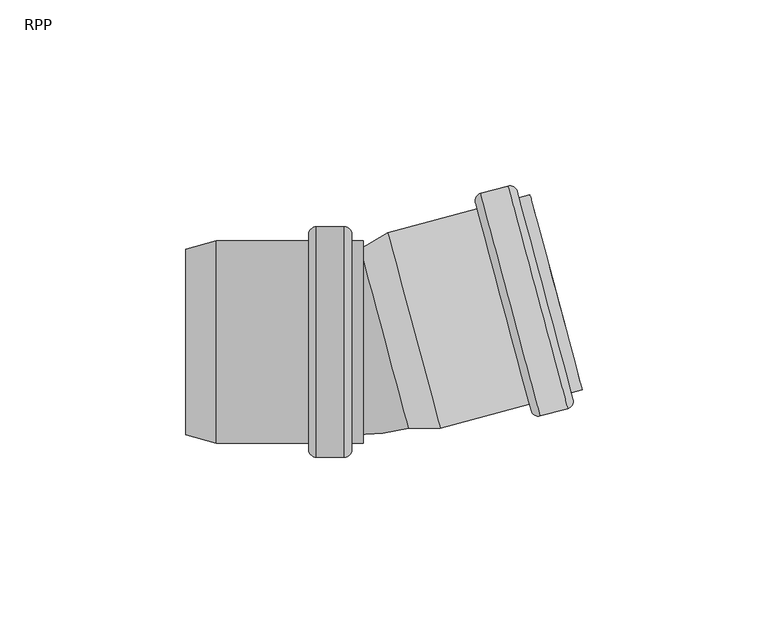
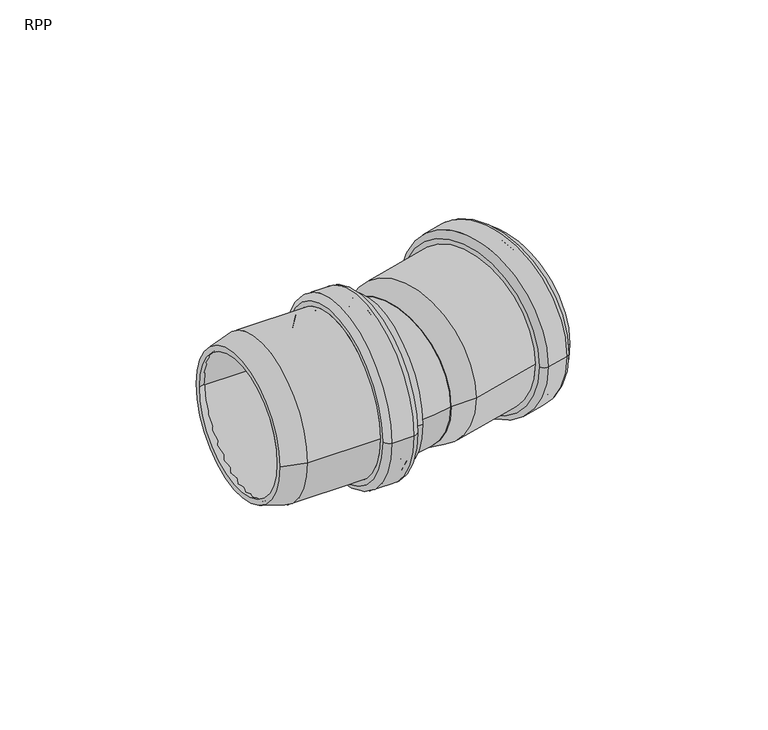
"""IFC4 building model written with IfcOpenShell, lengths in millimetres: pipe fitting geometry, RAUPIANO PLUS Bend : RPP."""

from ifc_helpers import new_model, si_unit, point, frame, origin, place, context, project, spatial, polyline, circle_curve, ellipse_curve, trimmed, source, transform, mapped, element, save
from ifc_brep_helpers import plane_surface, cylinder_surface, revolved_surface, advanced_brep


def rpp_1a07046c(model_context):
    return source(origin(), model_context, "Body", "AdvancedBrep", [
        advanced_brep(
        [(-14.8179224, -25.3, 0.0), (-14.8179224, 25.3, 0.0), (-41.3572709, 25.3, 0.0), (-41.3572709, -25.3, 0.0), (-14.3179224, -29.1, 0.0), (-14.3179224, 29.1, 0.0), (-14.8179224, 28.6, 0.0), (-14.8179224, -28.6, 0.0), (-7.5179224, -29.1, 0.0), (-7.5179224, 29.1, 0.0), (-7.0179224, -28.6, 0.0), (-7.0179224, 28.6, 0.0), (-2.0179224, -25.3, 0.0), (-2.0179224, 25.3, 0.0), (-7.0179224, 25.3, 0.0), (-7.0179224, -25.3, 0.0), (-5.1179224, -27.2, 0.0), (-5.1179224, 27.2, 0.0), (-2.0179224, 27.2, 0.0), (-2.0179224, -27.2, 0.0), (-7.1179224, -31.0, 0.0), (-7.1179224, 31.0, 0.0), (-5.1179224, 29.0, 0.0), (-5.1179224, -29.0, 0.0), (-14.7179224, -31.0, 0.0), (-14.7179224, 31.0, 0.0), (-16.7179224, -29.0, 0.0), (-16.7179224, 29.0, 0.0), (-41.6074107, -27.2, 0.0), (-41.6074107, 27.2, 0.0), (-16.7179224, 27.2, 0.0), (-16.7179224, -27.2, 0.0), (-49.8179224, -25.0, 0.0), (-49.8179224, 25.0, 0.0), (-49.8179224, 23.0329753, 0.0), (-49.8179224, -23.0329753, 0.0)],
        [
            (0, 1, circle_curve(frame((-14.8179224, 0.0, 0.0), z_axis=(1.0, 0.0, 0.0), x_axis=(0.0, 1.0, 0.0)), 25.3)),
            (1, 2),
            (2, 3, circle_curve(frame((-41.3572709, 0.0, 0.0), z_axis=(-1.0, 0.0, 0.0), x_axis=(0.0, 1.0, 0.0)), 25.3)),
            (3, 0),
            (4, 5, circle_curve(frame((-14.3179224, 0.0, 0.0), z_axis=(1.0, 0.0, 0.0), x_axis=(0.0, 1.0, 0.0)), 29.1)),
            (5, 6, circle_curve(frame((-14.3179224, 28.6, 0.0), z_axis=(0.0, 0.0, 1.0), x_axis=(0.0, -1.0, 0.0)), 0.5)),
            (6, 7, circle_curve(frame((-14.8179224, 0.0, 0.0), z_axis=(-1.0, 0.0, 0.0), x_axis=(0.0, 1.0, 0.0)), 28.6)),
            (7, 4, circle_curve(frame((-14.3179224, -28.6, 0.0), z_axis=(0.0, 0.0, 1.0), x_axis=(0.0, 1.0, 0.0)), 0.5)),
            (8, 9, circle_curve(frame((-7.5179224, 0.0, 0.0), z_axis=(1.0, 0.0, 0.0), x_axis=(0.0, 1.0, 0.0)), 29.1)),
            (9, 5),
            (4, 8),
            (10, 11, circle_curve(frame((-7.0179224, 0.0, 0.0), z_axis=(1.0, 0.0, 0.0), x_axis=(0.0, 1.0, 0.0)), 28.6)),
            (11, 9, circle_curve(frame((-7.5179224, 28.6, 0.0), z_axis=(0.0, 0.0, 1.0), x_axis=(0.0, -1.0, 0.0)), 0.5)),
            (8, 10, circle_curve(frame((-7.5179224, -28.6, 0.0), z_axis=(0.0, 0.0, 1.0), x_axis=(0.0, 1.0, 0.0)), 0.5)),
            (12, 13, circle_curve(frame((-2.0179224, 0.0, 0.0), z_axis=(1.0, 0.0, 0.0), x_axis=(0.0, 1.0, 0.0)), 25.3)),
            (13, 14),
            (14, 15, circle_curve(frame((-7.0179224, 0.0, 0.0), z_axis=(-1.0, 0.0, 0.0), x_axis=(0.0, 1.0, 0.0)), 25.3)),
            (15, 12),
            (16, 17, circle_curve(frame((-5.1179224, 0.0, 0.0), z_axis=(1.0, 0.0, 0.0), x_axis=(0.0, 1.0, 0.0)), 27.2)),
            (17, 18),
            (18, 19, circle_curve(frame((-2.0179224, 0.0, 0.0), z_axis=(-1.0, 0.0, 0.0), x_axis=(0.0, 1.0, 0.0)), 27.2)),
            (19, 16),
            (20, 21, circle_curve(frame((-7.1179224, 0.0, 0.0), z_axis=(1.0, 0.0, 0.0), x_axis=(0.0, 1.0, 0.0)), 31.0)),
            (21, 22, circle_curve(frame((-7.1179224, 29.0, 0.0), z_axis=(0.0, 0.0, -1.0), x_axis=(0.0, -1.0, 0.0)), 2.0)),
            (22, 23, circle_curve(frame((-5.1179224, 0.0, 0.0), z_axis=(-1.0, 0.0, 0.0), x_axis=(0.0, 1.0, 0.0)), 29.0)),
            (23, 20, circle_curve(frame((-7.1179224, -29.0, 0.0), z_axis=(0.0, 0.0, -1.0), x_axis=(0.0, 1.0, 0.0)), 2.0)),
            (24, 25, circle_curve(frame((-14.7179224, 0.0, 0.0), z_axis=(1.0, 0.0, 0.0), x_axis=(0.0, 1.0, 0.0)), 31.0)),
            (25, 21),
            (20, 24),
            (26, 27, circle_curve(frame((-16.7179224, 0.0, 0.0), z_axis=(1.0, 0.0, 0.0), x_axis=(0.0, 1.0, 0.0)), 29.0)),
            (27, 25, circle_curve(frame((-14.7179224, 29.0, 0.0), z_axis=(0.0, 0.0, -1.0), x_axis=(0.0, -1.0, 0.0)), 2.0)),
            (24, 26, circle_curve(frame((-14.7179224, -29.0, 0.0), z_axis=(0.0, 0.0, -1.0), x_axis=(0.0, 1.0, 0.0)), 2.0)),
            (28, 29, circle_curve(frame((-41.6074107, 0.0, 0.0), z_axis=(1.0, 0.0, 0.0), x_axis=(0.0, 1.0, 0.0)), 27.2)),
            (29, 30),
            (30, 31, circle_curve(frame((-16.7179224, 0.0, 0.0), z_axis=(-1.0, 0.0, 0.0), x_axis=(0.0, 1.0, 0.0)), 27.2)),
            (31, 28),
            (32, 33, circle_curve(frame((-49.8179224, 0.0, 0.0), z_axis=(1.0, 0.0, 0.0), x_axis=(0.0, 1.0, 0.0)), 25.0)),
            (33, 29),
            (28, 32),
            (2, 34),
            (34, 35, circle_curve(frame((-49.8179224, 0.0, 0.0), z_axis=(-1.0, 0.0, 0.0), x_axis=(0.0, 1.0, 0.0)), 23.0329753)),
            (35, 3),
            (1, 0, circle_curve(frame((-14.8179224, 0.0, 0.0), z_axis=(1.0, 0.0, 0.0), x_axis=(0.0, -1.0, 0.0)), 25.3)),
            (3, 2, circle_curve(frame((-41.3572709, 0.0, 0.0), z_axis=(-1.0, 0.0, 0.0), x_axis=(0.0, -1.0, 0.0)), 25.3)),
            (6, 7, circle_curve(frame((-14.8179224, 0.0, 0.0), z_axis=(1.0, 0.0, 0.0), x_axis=(0.0, -1.0, 0.0)), 28.6)),
            (5, 4, circle_curve(frame((-14.3179224, 0.0, 0.0), z_axis=(1.0, 0.0, 0.0), x_axis=(0.0, -1.0, 0.0)), 29.1)),
            (9, 8, circle_curve(frame((-7.5179224, 0.0, 0.0), z_axis=(1.0, 0.0, 0.0), x_axis=(0.0, -1.0, 0.0)), 29.1)),
            (11, 10, circle_curve(frame((-7.0179224, 0.0, 0.0), z_axis=(1.0, 0.0, 0.0), x_axis=(0.0, -1.0, 0.0)), 28.6)),
            (14, 15, circle_curve(frame((-7.0179224, 0.0, 0.0), z_axis=(1.0, 0.0, 0.0), x_axis=(0.0, -1.0, 0.0)), 25.3)),
            (13, 12, circle_curve(frame((-2.0179224, 0.0, 0.0), z_axis=(1.0, 0.0, 0.0), x_axis=(0.0, -1.0, 0.0)), 25.3)),
            (18, 19, circle_curve(frame((-2.0179224, 0.0, 0.0), z_axis=(1.0, 0.0, 0.0), x_axis=(0.0, -1.0, 0.0)), 27.2)),
            (17, 16, circle_curve(frame((-5.1179224, 0.0, 0.0), z_axis=(1.0, 0.0, 0.0), x_axis=(0.0, -1.0, 0.0)), 27.2)),
            (22, 23, circle_curve(frame((-5.1179224, 0.0, 0.0), z_axis=(1.0, 0.0, 0.0), x_axis=(0.0, -1.0, 0.0)), 29.0)),
            (21, 20, circle_curve(frame((-7.1179224, 0.0, 0.0), z_axis=(1.0, 0.0, 0.0), x_axis=(0.0, -1.0, 0.0)), 31.0)),
            (25, 24, circle_curve(frame((-14.7179224, 0.0, 0.0), z_axis=(1.0, 0.0, 0.0), x_axis=(0.0, -1.0, 0.0)), 31.0)),
            (27, 26, circle_curve(frame((-16.7179224, 0.0, 0.0), z_axis=(1.0, 0.0, 0.0), x_axis=(0.0, -1.0, 0.0)), 29.0)),
            (30, 31, circle_curve(frame((-16.7179224, 0.0, 0.0), z_axis=(1.0, 0.0, 0.0), x_axis=(0.0, -1.0, 0.0)), 27.2)),
            (29, 28, circle_curve(frame((-41.6074107, 0.0, 0.0), z_axis=(1.0, 0.0, 0.0), x_axis=(0.0, -1.0, 0.0)), 27.2)),
            (33, 32, circle_curve(frame((-49.8179224, 0.0, 0.0), z_axis=(1.0, 0.0, 0.0), x_axis=(0.0, -1.0, 0.0)), 25.0)),
            (34, 35, circle_curve(frame((-49.8179224, 0.0, 0.0), z_axis=(1.0, 0.0, 0.0), x_axis=(0.0, -1.0, 0.0)), 23.0329753)),
        ],
        [
            revolved_surface(polyline([(-41.3572709, 25.3, 0.0), (-14.8179224, 25.3, 0.0)]), (-49.8179224, 0.0, 0.0), (-1.0, 0.0, 0.0)),
            revolved_surface(trimmed(ellipse_curve(frame((-14.3179224, 28.6, 0.0), z_axis=(0.0, 0.0, -1.0), x_axis=(0.0, -1.0, 0.0)), 0.5, 0.5), [point((-14.8179224, 28.6, 0.0))], [point((-14.3179224, 29.1, 0.0))], True, "CARTESIAN"), (-49.8179224, 0.0, 0.0), (-1.0, 0.0, 0.0)),
            revolved_surface(polyline([(-14.3179224, 29.1, 0.0), (-7.517922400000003, 29.1, 0.0)]), (-49.8179224, 0.0, 0.0), (-1.0, 0.0, 0.0)),
            revolved_surface(trimmed(ellipse_curve(frame((-7.5179224, 28.6, 0.0), z_axis=(0.0, 0.0, -1.0), x_axis=(0.0, -1.0, 0.0)), 0.5, 0.5), [point((-7.5179224, 29.1, 0.0))], [point((-7.0179224, 28.6, 0.0))], True, "CARTESIAN"), (-49.8179224, 0.0, 0.0), (-1.0, 0.0, 0.0)),
            revolved_surface(polyline([(-7.017922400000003, 25.3, 0.0), (-2.0179224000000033, 25.3, 0.0)]), (-49.8179224, 0.0, 0.0), (-1.0, 0.0, 0.0)),
            cylinder_surface(frame((-49.8179224, 0.0, 0.0), z_axis=(-1.0, 0.0, 0.0), x_axis=(0.0, 1.0, 0.0)), 27.2),
            revolved_surface(trimmed(ellipse_curve(frame((-7.1179224, 29.0, 0.0), z_axis=(0.0, 0.0, 1.0), x_axis=(0.0, -1.0, 0.0)), 2.0, 2.0), [point((-5.1179224, 29.0, 0.0))], [point((-7.1179224, 31.0, 0.0))], True, "CARTESIAN"), (-49.8179224, 0.0, 0.0), (-1.0, 0.0, 0.0)),
            cylinder_surface(frame((-49.8179224, 0.0, 0.0), z_axis=(-1.0, 0.0, 0.0), x_axis=(0.0, 1.0, 0.0)), 31.0),
            revolved_surface(trimmed(ellipse_curve(frame((-14.7179224, 29.0, 0.0), z_axis=(0.0, 0.0, 1.0), x_axis=(0.0, -1.0, 0.0)), 2.0, 2.0), [point((-14.7179224, 31.0, 0.0))], [point((-16.7179224, 29.0, 0.0))], True, "CARTESIAN"), (-49.8179224, 0.0, 0.0), (-1.0, 0.0, 0.0)),
            revolved_surface(polyline([(-41.6074107, 27.2, 0.0), (-49.8179224, 25.0, 0.0)]), (-49.8179224, 0.0, 0.0), (-1.0, 0.0, 0.0)),
            revolved_surface(polyline([(-49.8179224, 23.0329753, 0.0), (-41.3572709, 25.3, 0.0)]), (-49.8179224, 0.0, 0.0), (-1.0, 0.0, 0.0)),
            revolved_surface(polyline([(-41.3572709, -25.3, 0.0), (-14.8179224, -25.3, 0.0)]), (-49.8179224, 0.0, 0.0), (-1.0, 0.0, 0.0)),
            plane_surface(frame((-14.8179224, 0.0, 0.0), z_axis=(1.0, 0.0, 0.0), x_axis=(0.0, -1.0, 0.0))),
            revolved_surface(trimmed(ellipse_curve(frame((-14.3179224, -28.6, 0.0), z_axis=(0.0, 0.0, 1.0), x_axis=(0.0, 1.0, 0.0)), 0.5, 0.5), [point((-14.8179224, -28.6, 0.0))], [point((-14.3179224, -29.1, 0.0))], True, "CARTESIAN"), (-49.8179224, 0.0, 0.0), (-1.0, 0.0, 0.0)),
            revolved_surface(polyline([(-14.3179224, -29.1, 0.0), (-7.517922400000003, -29.1, 0.0)]), (-49.8179224, 0.0, 0.0), (-1.0, 0.0, 0.0)),
            revolved_surface(trimmed(ellipse_curve(frame((-7.5179224, -28.6, 0.0), z_axis=(0.0, 0.0, 1.0), x_axis=(0.0, 1.0, 0.0)), 0.5, 0.5), [point((-7.5179224, -29.1, 0.0))], [point((-7.0179224, -28.6, 0.0))], True, "CARTESIAN"), (-49.8179224, 0.0, 0.0), (-1.0, 0.0, 0.0)),
            plane_surface(frame((-7.0179224, 0.0, 0.0), z_axis=(-1.0, 0.0, 0.0), x_axis=(0.0, -1.0, 0.0))),
            revolved_surface(polyline([(-7.017922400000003, -25.3, 0.0), (-2.0179224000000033, -25.3, 0.0)]), (-49.8179224, 0.0, 0.0), (-1.0, 0.0, 0.0)),
            plane_surface(frame((-2.0179224, 0.0, 0.0), z_axis=(1.0, 0.0, 0.0), x_axis=(0.0, -1.0, 0.0))),
            cylinder_surface(frame((-49.8179224, 0.0, 0.0), z_axis=(-1.0, 0.0, 0.0), x_axis=(0.0, -1.0, 0.0)), 27.2),
            plane_surface(frame((-5.1179224, 0.0, 0.0), z_axis=(1.0, 0.0, 0.0), x_axis=(0.0, -1.0, 0.0))),
            revolved_surface(trimmed(ellipse_curve(frame((-7.1179224, -29.0, 0.0), z_axis=(0.0, 0.0, -1.0), x_axis=(0.0, 1.0, 0.0)), 2.0, 2.0), [point((-5.1179224, -29.0, 0.0))], [point((-7.1179224, -31.0, 0.0))], True, "CARTESIAN"), (-49.8179224, 0.0, 0.0), (-1.0, 0.0, 0.0)),
            cylinder_surface(frame((-49.8179224, 0.0, 0.0), z_axis=(-1.0, 0.0, 0.0), x_axis=(0.0, -1.0, 0.0)), 31.0),
            revolved_surface(trimmed(ellipse_curve(frame((-14.7179224, -29.0, 0.0), z_axis=(0.0, 0.0, -1.0), x_axis=(0.0, 1.0, 0.0)), 2.0, 2.0), [point((-14.7179224, -31.0, 0.0))], [point((-16.7179224, -29.0, 0.0))], True, "CARTESIAN"), (-49.8179224, 0.0, 0.0), (-1.0, 0.0, 0.0)),
            plane_surface(frame((-16.7179224, 0.0, 0.0), z_axis=(-1.0, 0.0, 0.0), x_axis=(0.0, -1.0, 0.0))),
            revolved_surface(polyline([(-41.6074107, -27.2, 0.0), (-49.8179224, -25.0, 0.0)]), (-49.8179224, 0.0, 0.0), (-1.0, 0.0, 0.0)),
            plane_surface(frame((-49.8179224, 0.0, 0.0), z_axis=(-1.0, 0.0, 0.0), x_axis=(0.0, -1.0, 0.0))),
            revolved_surface(polyline([(-49.8179224, -23.0329753, 0.0), (-41.3572709, -25.3, 0.0)]), (-49.8179224, 0.0, 0.0), (-1.0, 0.0, 0.0)),
        ],
        [
            (0, [[1, 2, 3, 4]]),
            (1, [[5, 6, 7, 8]]),
            (2, [[9, 10, -5, 11]]),
            (3, [[12, 13, -9, 14]]),
            (4, [[15, 16, 17, 18]]),
            (5, [[19, 20, 21, 22]]),
            (6, [[23, 24, 25, 26]]),
            (7, [[27, 28, -23, 29]]),
            (8, [[30, 31, -27, 32]]),
            (5, [[33, 34, 35, 36]]),
            (9, [[37, 38, -33, 39]]),
            (10, [[-3, 40, 41, 42]]),
            (11, [[43, -4, 44, -2]]),
            (12, [[45, -7], [-43, -1]]),
            (13, [[46, -8, -45, -6]]),
            (14, [[47, -11, -46, -10]]),
            (15, [[48, -14, -47, -13]]),
            (16, [[-48, -12], [49, -17]]),
            (17, [[50, -18, -49, -16]]),
            (18, [[51, -21], [-50, -15]]),
            (19, [[52, -22, -51, -20]]),
            (20, [[53, -25], [-52, -19]]),
            (21, [[54, -26, -53, -24]]),
            (22, [[55, -29, -54, -28]]),
            (23, [[56, -32, -55, -31]]),
            (24, [[-56, -30], [57, -35]]),
            (19, [[58, -36, -57, -34]]),
            (25, [[59, -39, -58, -38]]),
            (26, [[-59, -37], [60, -41]]),
            (27, [[-44, -42, -60, -40]]),
        ],
    ),
        advanced_brep(
        [(9.6492025, -21.2599946, 0.0), (-2.2735428, 23.2362967, 0.0), (5.3120698, 27.6158522, 0.0), (18.4083135, -21.2599946, 0.0), (18.6584533, -23.1599946, 0.0), (4.5786972, 29.3863703, 0.0), (-2.7826462, 25.1362967, 0.0), (10.158306, -23.1599946, 0.0), (42.6998528, -16.718121, 0.0), (28.6200967, 35.8282439, 0.0), (52.9562531, -17.9039764, 0.0), (36.9094723, 41.9834249, 0.0), (29.568436, 40.0164001, 0.0), (45.6152168, -19.8710011, 0.0), (56.8989624, -12.9134811, 0.0), (42.8192063, 39.6328839, 0.0), (39.8248363, 38.8305448, 0.0), (53.9045923, -13.7158201, 0.0), (51.5775771, -12.3723172, 0.0), (38.4813334, 36.5035296, 0.0), (43.3109625, 37.7976248, 0.0), (56.4072062, -11.078222, 0.0), (45.5098309, -17.9322144, 0.0), (30.4465625, 38.2846687, 0.0), (37.0148581, 40.0446382, 0.0), (52.0781265, -16.1722449, 0.0), (30.947112, 34.484741, 0.0), (44.0433556, -14.3911058, 0.0), (28.1542224, 37.5669104, 0.0), (43.165727, -18.4567875, 0.0), (54.3704666, -15.4544866, 0.0), (39.358962, 40.5692113, 0.0), (37.6272306, 39.6910848, 0.0), (52.4316799, -15.5598725, 0.0), (44.8974585, -17.578661, 0.0), (30.0930091, 37.6722962, 0.0)],
        [
            (0, 1, circle_curve(frame((3.6878299, 0.988151, 0.0), z_axis=(-0.965925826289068, -0.25881904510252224, 0.0), x_axis=(-0.25881904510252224, 0.965925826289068, 0.0)), 23.0329753)),
            (1, 2),
            (2, 3, circle_curve(frame((11.8601917, 3.1779288, 0.0), z_axis=(0.965925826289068, 0.25881904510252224, 0.0), x_axis=(-0.25881904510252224, 0.965925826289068, 0.0)), 25.3)),
            (3, 0),
            (4, 5, circle_curve(frame((11.6185753, 3.1131879, 0.0), z_axis=(-0.965925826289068, -0.25881904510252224, 0.0), x_axis=(-0.25881904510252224, 0.965925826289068, 0.0)), 27.2)),
            (5, 6),
            (6, 7, circle_curve(frame((3.6878299, 0.988151, 0.0), z_axis=(0.965925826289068, 0.25881904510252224, 0.0), x_axis=(-0.25881904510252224, 0.965925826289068, 0.0)), 25.0)),
            (7, 4),
            (8, 9, circle_curve(frame((35.6599747, 9.5550614, 0.0), z_axis=(-0.965925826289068, -0.25881904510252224, 0.0), x_axis=(-0.25881904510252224, 0.965925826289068, 0.0)), 27.2)),
            (9, 5),
            (4, 8),
            (10, 11, circle_curve(frame((44.9328627, 12.0397243, 0.0), z_axis=(-0.965925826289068, -0.25881904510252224, 0.0), x_axis=(-0.25881904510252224, 0.965925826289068, 0.0)), 31.0)),
            (11, 12),
            (12, 13, circle_curve(frame((37.5918264, 10.0726995, 0.0), z_axis=(0.965925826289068, 0.25881904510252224, 0.0), x_axis=(-0.25881904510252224, 0.965925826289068, 0.0)), 31.0)),
            (13, 10),
            (14, 15, circle_curve(frame((49.8590844, 13.3597014, 0.0), z_axis=(-0.965925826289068, -0.25881904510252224, 0.0), x_axis=(-0.25881904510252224, 0.965925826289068, 0.0)), 27.2)),
            (15, 16),
            (16, 17, circle_curve(frame((46.8647143, 12.5573624, 0.0), z_axis=(0.965925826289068, 0.25881904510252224, 0.0), x_axis=(-0.25881904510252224, 0.965925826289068, 0.0)), 27.2)),
            (17, 14),
            (18, 19, circle_curve(frame((45.0294552, 12.0656062, 0.0), z_axis=(-0.965925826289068, -0.25881904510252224, 0.0), x_axis=(-0.25881904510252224, 0.965925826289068, 0.0)), 25.3)),
            (19, 20),
            (20, 21, circle_curve(frame((49.8590844, 13.3597014, 0.0), z_axis=(0.965925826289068, 0.25881904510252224, 0.0), x_axis=(-0.25881904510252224, 0.965925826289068, 0.0)), 25.3)),
            (21, 18),
            (22, 23, circle_curve(frame((37.9781967, 10.1762271, 0.0), z_axis=(-0.965925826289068, -0.25881904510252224, 0.0), x_axis=(-0.25881904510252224, 0.965925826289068, 0.0)), 29.1)),
            (23, 24),
            (24, 25, circle_curve(frame((44.5464923, 11.9361966, 0.0), z_axis=(0.965925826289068, 0.25881904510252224, 0.0), x_axis=(-0.25881904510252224, 0.965925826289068, 0.0)), 29.1)),
            (25, 22),
            (2, 26),
            (26, 27, circle_curve(frame((37.4952338, 10.0468176, 0.0), z_axis=(0.965925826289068, 0.25881904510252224, 0.0), x_axis=(-0.25881904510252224, 0.965925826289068, 0.0)), 25.3)),
            (27, 3),
            (1, 0, circle_curve(frame((3.6878299, 0.988151, 0.0), z_axis=(-0.965925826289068, -0.25881904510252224, 0.0), x_axis=(0.25881904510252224, -0.965925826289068, 0.0)), 23.0329753)),
            (3, 2, circle_curve(frame((11.8601917, 3.1779288, 0.0), z_axis=(0.965925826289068, 0.25881904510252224, 0.0), x_axis=(0.25881904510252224, -0.965925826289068, 0.0)), 25.3)),
            (6, 7, circle_curve(frame((3.6878299, 0.988151, 0.0), z_axis=(-0.965925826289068, -0.25881904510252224, 0.0), x_axis=(0.25881904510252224, -0.965925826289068, 0.0)), 25.0)),
            (5, 4, circle_curve(frame((11.6185753, 3.1131879, 0.0), z_axis=(-0.965925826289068, -0.25881904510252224, 0.0), x_axis=(0.25881904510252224, -0.965925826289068, 0.0)), 27.2)),
            (9, 8, circle_curve(frame((35.6599747, 9.5550614, 0.0), z_axis=(-0.965925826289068, -0.25881904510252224, 0.0), x_axis=(0.25881904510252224, -0.965925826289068, 0.0)), 27.2)),
            (28, 29, circle_curve(frame((35.6599747, 9.5550614, 0.0), z_axis=(-0.965925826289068, -0.25881904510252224, 0.0), x_axis=(0.25881904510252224, -0.965925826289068, 0.0)), 29.0)),
            (29, 28, circle_curve(frame((35.6599747, 9.5550614, 0.0), z_axis=(-0.965925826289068, -0.25881904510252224, 0.0), x_axis=(-0.25881904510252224, 0.965925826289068, 0.0)), 29.0)),
            (11, 10, circle_curve(frame((44.9328627, 12.0397243, 0.0), z_axis=(-0.965925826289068, -0.25881904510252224, 0.0), x_axis=(0.25881904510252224, -0.965925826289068, 0.0)), 31.0)),
            (13, 12, circle_curve(frame((37.5918264, 10.0726995, 0.0), z_axis=(0.965925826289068, 0.25881904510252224, 0.0), x_axis=(0.25881904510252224, -0.965925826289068, 0.0)), 31.0)),
            (30, 31, circle_curve(frame((46.8647143, 12.5573624, 0.0), z_axis=(0.965925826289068, 0.25881904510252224, 0.0), x_axis=(0.25881904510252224, -0.965925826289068, 0.0)), 29.0)),
            (31, 30, circle_curve(frame((46.8647143, 12.5573624, 0.0), z_axis=(0.965925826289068, 0.25881904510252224, 0.0), x_axis=(-0.25881904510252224, 0.965925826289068, 0.0)), 29.0)),
            (16, 17, circle_curve(frame((46.8647143, 12.5573624, 0.0), z_axis=(-0.965925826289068, -0.25881904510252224, 0.0), x_axis=(0.25881904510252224, -0.965925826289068, 0.0)), 27.2)),
            (15, 14, circle_curve(frame((49.8590844, 13.3597014, 0.0), z_axis=(-0.965925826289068, -0.25881904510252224, 0.0), x_axis=(0.25881904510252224, -0.965925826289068, 0.0)), 27.2)),
            (20, 21, circle_curve(frame((49.8590844, 13.3597014, 0.0), z_axis=(-0.965925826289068, -0.25881904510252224, 0.0), x_axis=(0.25881904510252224, -0.965925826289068, 0.0)), 25.3)),
            (19, 18, circle_curve(frame((45.0294552, 12.0656062, 0.0), z_axis=(-0.965925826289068, -0.25881904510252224, 0.0), x_axis=(0.25881904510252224, -0.965925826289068, 0.0)), 25.3)),
            (32, 33, circle_curve(frame((45.0294552, 12.0656062, 0.0), z_axis=(-0.965925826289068, -0.25881904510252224, 0.0), x_axis=(0.25881904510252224, -0.965925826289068, 0.0)), 28.6)),
            (33, 32, circle_curve(frame((45.0294552, 12.0656062, 0.0), z_axis=(-0.965925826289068, -0.25881904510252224, 0.0), x_axis=(-0.25881904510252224, 0.965925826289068, 0.0)), 28.6)),
            (23, 22, circle_curve(frame((37.9781967, 10.1762271, 0.0), z_axis=(-0.965925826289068, -0.25881904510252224, 0.0), x_axis=(0.25881904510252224, -0.965925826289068, 0.0)), 29.1)),
            (25, 24, circle_curve(frame((44.5464923, 11.9361966, 0.0), z_axis=(0.965925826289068, 0.25881904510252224, 0.0), x_axis=(0.25881904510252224, -0.965925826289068, 0.0)), 29.1)),
            (34, 35, circle_curve(frame((37.4952338, 10.0468176, 0.0), z_axis=(0.965925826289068, 0.25881904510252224, 0.0), x_axis=(0.25881904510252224, -0.965925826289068, 0.0)), 28.6)),
            (35, 34, circle_curve(frame((37.4952338, 10.0468176, 0.0), z_axis=(0.965925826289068, 0.25881904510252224, 0.0), x_axis=(-0.25881904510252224, 0.965925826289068, 0.0)), 28.6)),
            (26, 27, circle_curve(frame((37.4952338, 10.0468176, 0.0), z_axis=(-0.965925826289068, -0.25881904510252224, 0.0), x_axis=(0.25881904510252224, -0.965925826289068, 0.0)), 25.3)),
            (12, 28, circle_curve(frame((30.0860741, 38.0845485, 0.0), z_axis=(0.0, 0.0, 1.0000000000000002), x_axis=(0.25881904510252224, -0.965925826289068, 0.0)), 2.0)),
            (29, 13, circle_curve(frame((45.0975787, -17.9391494, 0.0), z_axis=(0.0, 0.0, 1.0000000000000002), x_axis=(-0.25881904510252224, 0.965925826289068, 0.0)), 2.0)),
            (31, 11, circle_curve(frame((37.4271104, 40.0515732, 0.0), z_axis=(0.0, 0.0, 1.0000000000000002), x_axis=(0.25881904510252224, -0.965925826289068, 0.0)), 2.0)),
            (10, 30, circle_curve(frame((52.438615, -15.9721247, 0.0), z_axis=(0.0, 0.0, 1.0000000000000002), x_axis=(-0.25881904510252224, 0.965925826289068, 0.0)), 2.0)),
            (24, 32, circle_curve(frame((37.1442676, 39.5616753, 0.0), z_axis=(0.0, 0.0, -1.0000000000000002), x_axis=(0.25881904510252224, -0.965925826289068, 0.0)), 0.5)),
            (33, 25, circle_curve(frame((51.948717, -15.689282, 0.0), z_axis=(0.0, 0.0, -1.0000000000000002), x_axis=(-0.25881904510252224, 0.965925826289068, 0.0)), 0.5)),
            (35, 23, circle_curve(frame((30.575972, 37.8017058, 0.0), z_axis=(0.0, 0.0, -1.0000000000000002), x_axis=(0.25881904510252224, -0.965925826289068, 0.0)), 0.5)),
            (22, 34, circle_curve(frame((45.3804214, -17.4492515, 0.0), z_axis=(0.0, 0.0, -1.0000000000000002), x_axis=(-0.25881904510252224, 0.965925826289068, 0.0)), 0.5)),
        ],
        [
            revolved_surface(polyline([(5.3120698, 27.6158522, 0.0), (-2.2735428, 23.2362967, 0.0)]), (3.6878299, 0.988151, 0.0), (0.965925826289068, 0.25881904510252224, 0.0)),
            revolved_surface(polyline([(-2.7826462, 25.1362967, 0.0), (4.5786972, 29.3863703, 0.0)]), (3.6878299, 0.988151, 0.0), (0.965925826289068, 0.25881904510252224, 0.0)),
            cylinder_surface(frame((3.6878299, 0.988151, 0.0), z_axis=(0.965925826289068, 0.25881904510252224, 0.0), x_axis=(-0.25881904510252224, 0.965925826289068, 0.0)), 27.2),
            cylinder_surface(frame((3.6878299, 0.988151, 0.0), z_axis=(0.965925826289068, 0.25881904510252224, 0.0), x_axis=(-0.25881904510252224, 0.965925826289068, 0.0)), 31.0),
            revolved_surface(polyline([(43.310962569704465, 37.79762476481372, 0.0), (38.48133338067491, 36.503529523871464, 0.0)]), (3.6878299, 0.988151, 0.0), (0.965925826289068, 0.25881904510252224, 0.0)),
            revolved_surface(polyline([(37.01485811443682, 40.04463814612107, 0.0), (30.446562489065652, 38.28466863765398, 0.0)]), (3.6878299, 0.988151, 0.0), (0.965925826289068, 0.25881904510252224, 0.0)),
            revolved_surface(polyline([(30.947112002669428, 34.48474099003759, 0.0), (5.312069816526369, 27.61585213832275, 0.0)]), (3.6878299, 0.988151, 0.0), (0.965925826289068, 0.25881904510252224, 0.0)),
            revolved_surface(polyline([(18.4083135, -21.2599946, 0.0), (9.6492025, -21.2599946, 0.0)]), (3.6878299, 0.988151, 0.0), (0.965925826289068, 0.25881904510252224, 0.0)),
            plane_surface(frame((3.6878299, 0.988151, 0.0), z_axis=(-0.965925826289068, -0.25881904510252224, 0.0), x_axis=(0.25881904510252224, -0.965925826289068, 0.0))),
            revolved_surface(polyline([(10.158306, -23.1599946, 0.0), (18.6584533, -23.1599946, 0.0)]), (3.6878299, 0.988151, 0.0), (0.965925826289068, 0.25881904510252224, 0.0)),
            cylinder_surface(frame((3.6878299, 0.988151, 0.0), z_axis=(0.965925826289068, 0.25881904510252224, 0.0), x_axis=(0.25881904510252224, -0.965925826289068, 0.0)), 27.2),
            plane_surface(frame((35.6599747, 9.5550614, 0.0), z_axis=(-0.965925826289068, -0.25881904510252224, 0.0), x_axis=(0.25881904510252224, -0.965925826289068, 0.0))),
            cylinder_surface(frame((3.6878299, 0.988151, 0.0), z_axis=(0.965925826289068, 0.25881904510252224, 0.0), x_axis=(0.25881904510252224, -0.965925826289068, 0.0)), 31.0),
            plane_surface(frame((46.8647143, 12.5573624, 0.0), z_axis=(0.965925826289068, 0.25881904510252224, 0.0), x_axis=(0.25881904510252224, -0.965925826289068, 0.0))),
            plane_surface(frame((49.8590844, 13.3597014, 0.0), z_axis=(0.965925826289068, 0.25881904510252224, 0.0), x_axis=(0.25881904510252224, -0.965925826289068, 0.0))),
            revolved_surface(polyline([(56.40720625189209, -11.078222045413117, 0.0), (51.57757706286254, -12.372317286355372, 0.0)]), (3.6878299, 0.988151, 0.0), (0.965925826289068, 0.25881904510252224, 0.0)),
            plane_surface(frame((45.0294552, 12.0656062, 0.0), z_axis=(-0.965925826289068, -0.25881904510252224, 0.0), x_axis=(0.25881904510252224, -0.965925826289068, 0.0))),
            revolved_surface(polyline([(52.07812653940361, -16.172244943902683, 0.0), (45.50983091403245, -17.932214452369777, 0.0)]), (3.6878299, 0.988151, 0.0), (0.965925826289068, 0.25881904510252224, 0.0)),
            plane_surface(frame((37.4952338, 10.0468176, 0.0), z_axis=(0.965925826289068, 0.25881904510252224, 0.0), x_axis=(0.25881904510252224, -0.965925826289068, 0.0))),
            revolved_surface(polyline([(44.043355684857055, -14.391105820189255, 0.0), (18.408313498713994, -21.25999467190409, 0.0)]), (3.6878299, 0.988151, 0.0), (0.965925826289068, 0.25881904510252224, 0.0)),
            revolved_surface(trimmed(ellipse_curve(frame((30.0860741, 38.0845485, 0.0), z_axis=(0.0, 0.0, -1.0000000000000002), x_axis=(0.25881904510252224, -0.965925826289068, 0.0)), 2.0, 2.0), [point((28.1542224, 37.5669104, 0.0))], [point((29.568436, 40.0164001, 0.0))], True, "CARTESIAN"), (3.6878299, 0.988151, 0.0), (0.965925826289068, 0.25881904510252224, 0.0)),
            revolved_surface(trimmed(ellipse_curve(frame((37.4271104, 40.0515732, 0.0), z_axis=(0.0, 0.0, -1.0000000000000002), x_axis=(0.25881904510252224, -0.965925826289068, 0.0)), 2.0, 2.0), [point((36.9094723, 41.9834249, 0.0))], [point((39.358962, 40.5692113, 0.0))], True, "CARTESIAN"), (3.6878299, 0.988151, 0.0), (0.965925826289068, 0.25881904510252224, 0.0)),
            revolved_surface(trimmed(ellipse_curve(frame((37.1442676, 39.5616753, 0.0), z_axis=(0.0, 0.0, 1.0000000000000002), x_axis=(0.25881904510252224, -0.965925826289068, 0.0)), 0.5, 0.5), [point((37.6272306, 39.6910848, 0.0))], [point((37.0148581, 40.0446382, 0.0))], True, "CARTESIAN"), (3.6878299, 0.988151, 0.0), (0.965925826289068, 0.25881904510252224, 0.0)),
            revolved_surface(trimmed(ellipse_curve(frame((30.575972, 37.8017058, 0.0), z_axis=(0.0, 0.0, 1.0000000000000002), x_axis=(0.25881904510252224, -0.965925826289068, 0.0)), 0.5, 0.5), [point((30.4465625, 38.2846687, 0.0))], [point((30.0930091, 37.6722962, 0.0))], True, "CARTESIAN"), (3.6878299, 0.988151, 0.0), (0.965925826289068, 0.25881904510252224, 0.0)),
            revolved_surface(trimmed(ellipse_curve(frame((45.0975787, -17.9391494, 0.0), z_axis=(0.0, 0.0, 1.0000000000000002), x_axis=(-0.2588190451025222, 0.965925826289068, 0.0)), 2.0, 2.0), [point((43.165727, -18.4567875, 0.0))], [point((45.6152168, -19.8710011, 0.0))], True, "CARTESIAN"), (3.6878299, 0.988151, 0.0), (0.965925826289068, 0.25881904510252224, 0.0)),
            revolved_surface(trimmed(ellipse_curve(frame((52.438615, -15.9721247, 0.0), z_axis=(0.0, 0.0, 1.0000000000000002), x_axis=(-0.2588190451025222, 0.965925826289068, 0.0)), 2.0, 2.0), [point((52.9562531, -17.9039764, 0.0))], [point((54.3704666, -15.4544866, 0.0))], True, "CARTESIAN"), (3.6878299, 0.988151, 0.0), (0.965925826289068, 0.25881904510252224, 0.0)),
            revolved_surface(trimmed(ellipse_curve(frame((51.948717, -15.689282, 0.0), z_axis=(0.0, 0.0, -1.0000000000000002), x_axis=(-0.2588190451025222, 0.965925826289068, 0.0)), 0.5, 0.5), [point((52.4316799, -15.5598725, 0.0))], [point((52.0781265, -16.1722449, 0.0))], True, "CARTESIAN"), (3.6878299, 0.988151, 0.0), (0.965925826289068, 0.25881904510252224, 0.0)),
            revolved_surface(trimmed(ellipse_curve(frame((45.3804214, -17.4492515, 0.0), z_axis=(0.0, 0.0, -1.0000000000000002), x_axis=(-0.2588190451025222, 0.965925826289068, 0.0)), 0.5, 0.5), [point((45.5098309, -17.9322144, 0.0))], [point((44.8974585, -17.578661, 0.0))], True, "CARTESIAN"), (3.6878299, 0.988151, 0.0), (0.965925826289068, 0.25881904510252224, 0.0)),
        ],
        [
            (0, [[1, 2, 3, 4]]),
            (1, [[5, 6, 7, 8]]),
            (2, [[9, 10, -5, 11]]),
            (3, [[12, 13, 14, 15]]),
            (2, [[16, 17, 18, 19]]),
            (4, [[20, 21, 22, 23]]),
            (5, [[24, 25, 26, 27]]),
            (6, [[-3, 28, 29, 30]]),
            (7, [[31, -4, 32, -2]]),
            (8, [[33, -7], [-31, -1]]),
            (9, [[34, -8, -33, -6]]),
            (10, [[35, -11, -34, -10]]),
            (11, [[36, 37], [-35, -9]]),
            (12, [[38, -15, 39, -13]]),
            (13, [[40, 41], [42, -18]]),
            (10, [[43, -19, -42, -17]]),
            (14, [[-43, -16], [44, -22]]),
            (15, [[45, -23, -44, -21]]),
            (16, [[46, 47], [-45, -20]]),
            (17, [[48, -27, 49, -25]]),
            (18, [[50, 51], [52, -29]]),
            (19, [[-32, -30, -52, -28]]),
            (20, [[-14, 53, -37, 54]]),
            (21, [[-41, 55, -12, 56]]),
            (22, [[-26, 57, -47, 58]]),
            (23, [[-51, 59, -24, 60]]),
            (24, [[-39, -54, -36, -53]]),
            (25, [[-40, -56, -38, -55]]),
            (26, [[-49, -58, -46, -57]]),
            (27, [[-50, -60, -48, -59]]),
        ],
    ),
        advanced_brep(
        [(-3.8179224, 23.2, 0.0), (-3.8179224, -23.2, 0.0), (-49.8179224, -23.2, 0.0), (-49.8179224, 23.2, 0.0), (-46.0858716, 25.0, 0.0), (-46.0858716, -25.0, 0.0), (-3.8179224, -25.0, 0.0), (-3.8179224, 25.0, 0.0), (-49.8179224, 24.0, 0.0), (-49.8179224, -24.0, 0.0)],
        [
            (0, 1, circle_curve(frame((-3.8179224, 0.0, 0.0), z_axis=(1.0, 0.0, 0.0), x_axis=(0.0, -1.0, 0.0)), 23.2)),
            (1, 2),
            (2, 3, circle_curve(frame((-49.8179224, 0.0, 0.0), z_axis=(-1.0, 0.0, 0.0), x_axis=(0.0, -1.0, 0.0)), 23.2)),
            (3, 0),
            (4, 5, circle_curve(frame((-46.0858716, 0.0, 0.0), z_axis=(1.0, 0.0, 0.0), x_axis=(0.0, -1.0, 0.0)), 25.0)),
            (5, 6),
            (6, 7, circle_curve(frame((-3.8179224, 0.0, 0.0), z_axis=(-1.0, 0.0, 0.0), x_axis=(0.0, -1.0, 0.0)), 25.0)),
            (7, 4),
            (8, 9, circle_curve(frame((-49.8179224, 0.0, 0.0), z_axis=(1.0, 0.0, 0.0), x_axis=(0.0, -1.0, 0.0)), 24.0)),
            (9, 5),
            (4, 8),
            (1, 0, circle_curve(frame((-3.8179224, 0.0, 0.0), z_axis=(1.0, 0.0, 0.0), x_axis=(0.0, 1.0, 0.0)), 23.2)),
            (3, 2, circle_curve(frame((-49.8179224, 0.0, 0.0), z_axis=(-1.0, 0.0, 0.0), x_axis=(0.0, 1.0, 0.0)), 23.2)),
            (6, 7, circle_curve(frame((-3.8179224, 0.0, 0.0), z_axis=(1.0, 0.0, 0.0), x_axis=(0.0, 1.0, 0.0)), 25.0)),
            (5, 4, circle_curve(frame((-46.0858716, 0.0, 0.0), z_axis=(1.0, 0.0, 0.0), x_axis=(0.0, 1.0, 0.0)), 25.0)),
            (9, 8, circle_curve(frame((-49.8179224, 0.0, 0.0), z_axis=(1.0, 0.0, 0.0), x_axis=(0.0, 1.0, 0.0)), 24.0)),
        ],
        [
            revolved_surface(polyline([(-49.8179224, -23.2, 0.0), (-3.8179224, -23.2, 0.0)]), (-3.8179224, 0.0, 0.0), (-1.0, 0.0, 0.0)),
            cylinder_surface(frame((-3.8179224, 0.0, 0.0), z_axis=(-1.0, 0.0, 0.0), x_axis=(0.0, -1.0, 0.0)), 25.0),
            revolved_surface(polyline([(-46.0858716, -25.0, 0.0), (-49.8179224, -24.0, 0.0)]), (-3.8179224, 0.0, 0.0), (-1.0, 0.0, 0.0)),
            revolved_surface(polyline([(-49.8179224, 23.2, 0.0), (-3.8179224, 23.2, 0.0)]), (-3.8179224, 0.0, 0.0), (-1.0, 0.0, 0.0)),
            plane_surface(frame((-3.8179224, 0.0, 0.0), z_axis=(1.0, 0.0, 0.0), x_axis=(0.0, 1.0, 0.0))),
            cylinder_surface(frame((-3.8179224, 0.0, 0.0), z_axis=(-1.0, 0.0, 0.0), x_axis=(0.0, 1.0, 0.0)), 25.0),
            revolved_surface(polyline([(-46.0858716, 25.0, 0.0), (-49.8179224, 24.0, 0.0)]), (-3.8179224, 0.0, 0.0), (-1.0, 0.0, 0.0)),
            plane_surface(frame((-49.8179224, 0.0, 0.0), z_axis=(-1.0, 0.0, 0.0), x_axis=(0.0, 1.0, 0.0))),
        ],
        [
            (0, [[1, 2, 3, 4]]),
            (1, [[5, 6, 7, 8]]),
            (2, [[9, 10, -5, 11]]),
            (3, [[12, -4, 13, -2]]),
            (4, [[14, -7], [-12, -1]]),
            (5, [[15, -8, -14, -6]]),
            (6, [[16, -11, -15, -10]]),
            (7, [[-16, -9], [-13, -3]]),
        ],
    ),
        advanced_brep(
        [(-3.8179224, -25.0, 0.0), (-3.8179224, 25.0, 0.0), (-3.8179224, -23.2, 0.0), (-3.8179224, 23.2, 0.0), (10.158306, -23.1599946, 0.0), (-2.7826462, 25.1362967, 0.0), (9.6924317, -21.4213281, 0.0), (-2.316772, 23.3976302, 0.0)],
        [
            (0, 1, circle_curve(frame((-3.8179224, 0.0, 0.0), z_axis=(-1.0, 0.0, 0.0), x_axis=(0.0, 1.0, 0.0)), 25.0)),
            (1, 0, circle_curve(frame((-3.8179224, 0.0, 0.0), z_axis=(-1.0, 0.0, 0.0), x_axis=(0.0, 1.0, 0.0)), 25.0)),
            (2, 3, circle_curve(frame((-3.8179224, 0.0, 0.0), z_axis=(1.0, 0.0, 0.0), x_axis=(0.0, 1.0, 0.0)), 23.2)),
            (3, 2, circle_curve(frame((-3.8179224, 0.0, 0.0), z_axis=(1.0, 0.0, 0.0), x_axis=(0.0, 1.0, 0.0)), 23.2)),
            (4, 5, circle_curve(frame((3.6878299, 0.988151, 0.0), z_axis=(0.9659258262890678, 0.25881904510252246, 0.0), x_axis=(-0.25881904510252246, 0.9659258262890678, 0.0)), 25.0)),
            (5, 4, circle_curve(frame((3.6878299, 0.988151, 0.0), z_axis=(0.9659258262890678, 0.25881904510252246, 0.0), x_axis=(-0.25881904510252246, 0.9659258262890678, 0.0)), 25.0)),
            (6, 7, circle_curve(frame((3.6878299, 0.988151, 0.0), z_axis=(-0.9659258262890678, -0.25881904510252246, 0.0), x_axis=(-0.25881904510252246, 0.9659258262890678, 0.0)), 23.2)),
            (7, 6, circle_curve(frame((3.6878299, 0.988151, 0.0), z_axis=(-0.9659258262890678, -0.25881904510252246, 0.0), x_axis=(-0.25881904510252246, 0.9659258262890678, 0.0)), 23.2)),
            (7, 3, circle_curve(frame((-3.8179224, 29.0, 0.0), z_axis=(0.0, 0.0, -1.0), x_axis=(0.0, -1.0, 0.0)), 5.8)),
            (2, 6, circle_curve(frame((-3.8179224, 29.0, 0.0), z_axis=(0.0, 0.0, 1.0), x_axis=(0.0, -1.0, 0.0)), 52.2)),
            (5, 1, circle_curve(frame((-3.8179224, 29.0, 0.0), z_axis=(0.0, 0.0, -1.0), x_axis=(0.0, -1.0, 0.0)), 4.0)),
            (0, 4, circle_curve(frame((-3.8179224, 29.0, 0.0), z_axis=(0.0, 0.0, 1.0), x_axis=(0.0, -1.0, 0.0)), 54.0)),
        ],
        [
            plane_surface(frame((-3.8179224, 0.0, 0.0), z_axis=(-1.0, 0.0, 0.0), x_axis=(0.0, 0.0, 1.0))),
            plane_surface(frame((3.6878299, 0.988151, 0.0), z_axis=(0.9659258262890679, 0.2588190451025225, 0.0), x_axis=(0.0, 0.0, 1.0))),
            revolved_surface(trimmed(ellipse_curve(frame((-3.8179224, 0.0, 0.0), z_axis=(1.0, 0.0, 0.0), x_axis=(0.0, 1.0, 0.0)), 23.2, 23.2), [point((-3.8179224, -23.2, 0.0))], [point((-3.8179224, 23.2, 0.0))], True, "CARTESIAN"), (-3.8179224, 29.0, 0.0), (0.0, 0.0, 1.0)),
            revolved_surface(trimmed(ellipse_curve(frame((-3.8179224, 0.0, 0.0), z_axis=(1.0, 0.0, 0.0), x_axis=(0.0, 1.0, 0.0)), 23.2, 23.2), [point((-3.8179224, 23.2, 0.0))], [point((-3.8179224, -23.2, 0.0))], True, "CARTESIAN"), (-3.8179224, 29.0, 0.0), (0.0, 0.0, 1.0)),
            revolved_surface(trimmed(ellipse_curve(frame((-3.8179224, 0.0, 0.0), z_axis=(-1.0, 0.0, 0.0), x_axis=(0.0, 1.0, 0.0)), 25.0, 25.0), [point((-3.8179224, -25.0, 0.0))], [point((-3.8179224, 25.0, 0.0))], True, "CARTESIAN"), (-3.8179224, 29.0, 0.0), (0.0, 0.0, 1.0)),
            revolved_surface(trimmed(ellipse_curve(frame((-3.8179224, 0.0, 0.0), z_axis=(-1.0, 0.0, 0.0), x_axis=(0.0, 1.0, 0.0)), 25.0, 25.0), [point((-3.8179224, 25.0, 0.0))], [point((-3.8179224, -25.0, 0.0))], True, "CARTESIAN"), (-3.8179224, 29.0, 0.0), (0.0, 0.0, 1.0)),
        ],
        [
            (0, [[1, 2], [3, 4]]),
            (1, [[5, 6], [7, 8]]),
            (2, [[9, -3, 10, -8]]),
            (3, [[-10, -4, -9, -7]]),
            (4, [[11, -1, 12, -6]]),
            (5, [[-12, -2, -11, -5]]),
        ],
    ),
    ])


if __name__ == "__main__":
    model = new_model("IFC4")
    model_context = context("Model", 3, world=origin())
    ifc_project = project(units=[si_unit("LENGTHUNIT", "METRE", prefix="MILLI")], contexts=[model_context])
    site = spatial("IfcSite", under=ifc_project)
    building = spatial("IfcBuilding", under=site)
    placement = place(None, origin())
    rpp_shape = rpp_1a07046c(model_context)
    element("IfcPipeFitting", 1, ObjectType="RAUPIANO PLUS Bend : RPP", at=placement, inside=building, context=model_context, shape_type="MappedRepresentation", body=[
        mapped(rpp_shape, transform((0.0, 0.0, 0.0), x_axis=(1.0, 0.0, 0.0), y_axis=(0.0, 1.0, 0.0), z_axis=(0.0, 0.0, 1.0))),
    ])
    save(model, "model.ifc")
